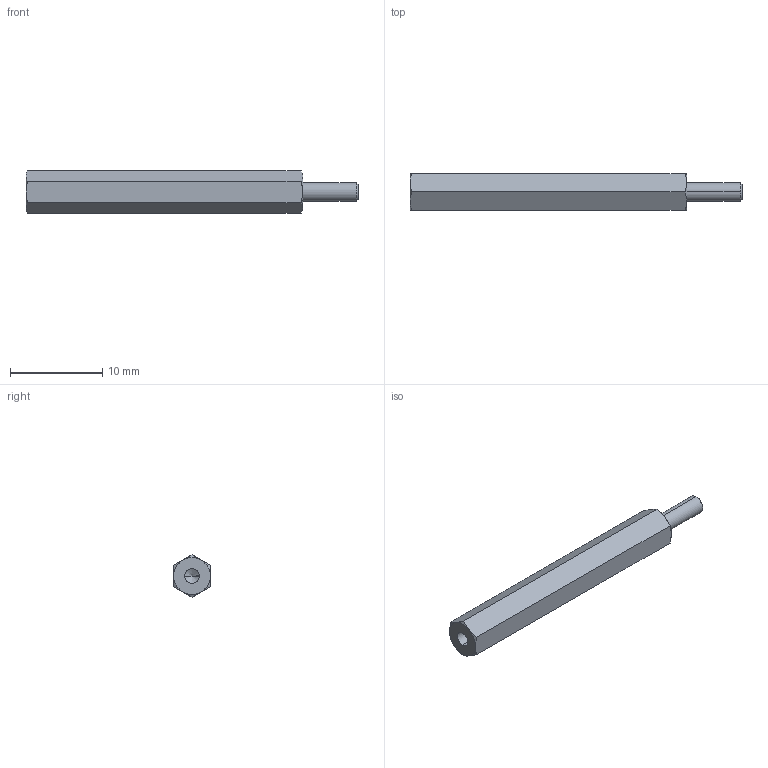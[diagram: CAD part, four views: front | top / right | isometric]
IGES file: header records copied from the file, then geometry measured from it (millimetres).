
Start section: SolidWorks IGES file using analytic representation for surfaces
Global section: file name: C:\Users\render1\Desktop\P0185_IGES\P0185.02-30.igs; native system: SolidWorks 2009; preprocessor: SolidWorks 2009; author: render1; date: 130627.111402; units: millimetre
Bounding box: 36 x 4 x 4.62 mm (x, y, z)
Surface area: 509.5 mm2 (no closed solid volume)
Topology: 0 solids, 0 shells, 29 faces, 292 edges, 290 vertices
Faces by surface type: revolution 20, bspline 9
